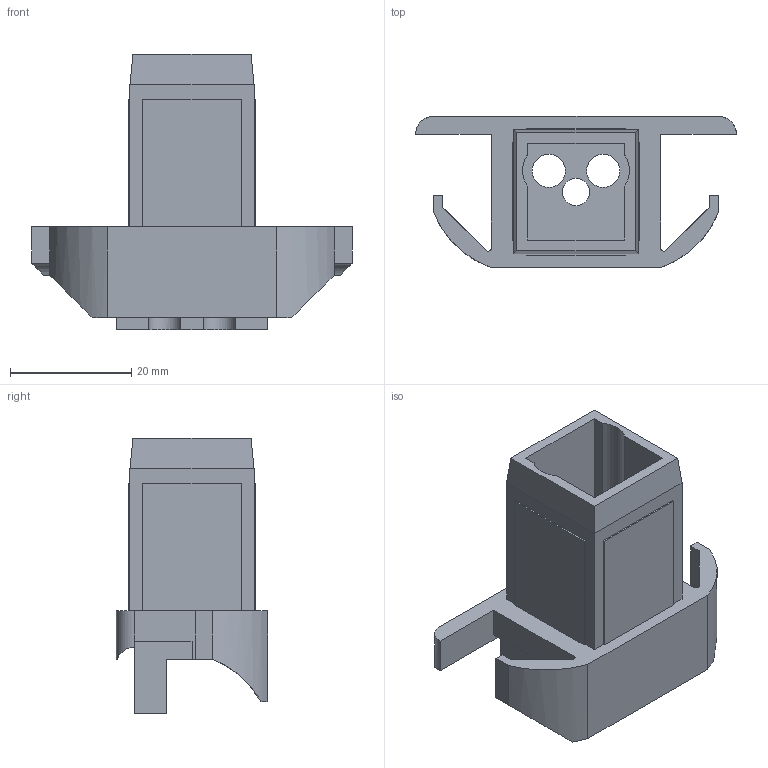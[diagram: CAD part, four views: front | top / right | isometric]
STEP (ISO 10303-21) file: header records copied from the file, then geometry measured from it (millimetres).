
FILE_DESCRIPTION (( 'STEP AP203' ), '1' );
FILE_NAME ('F025107.STEP', '2017-03-22T12:37:20', ( 'Localadmin' ), ( 'Microsoft' ), 'SwSTEP 2.0', 'SolidWorks 2016', '' );
FILE_SCHEMA (( 'CONFIG_CONTROL_DESIGN' ));
Length unit declared in the file: millimetre
Products named in the file (1): F025107
Bounding box: 53 x 25 x 45.5 mm (x, y, z)
Volume: 11503.1 mm3; surface area: 9050.3 mm2
Topology: 1 solids, 1 shells, 90 faces, 247 edges, 162 vertices
Faces by surface type: plane 69, cylinder 21
Entity records: 2944 total; most frequent: CARTESIAN_POINT 546, ORIENTED_EDGE 494, DIRECTION 465, EDGE_CURVE 247, VECTOR 195, LINE 195, VERTEX_POINT 162, AXIS2_PLACEMENT_3D 135
